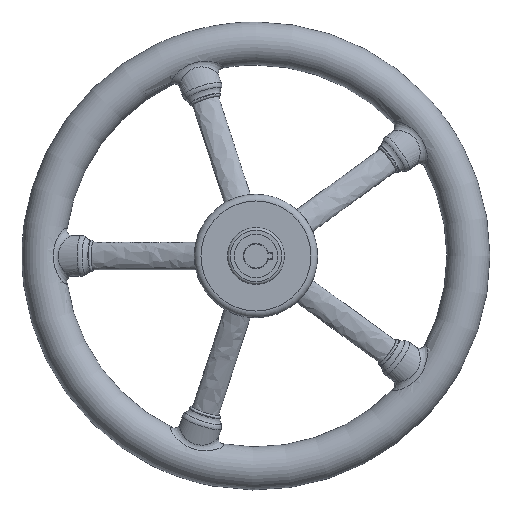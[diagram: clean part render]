
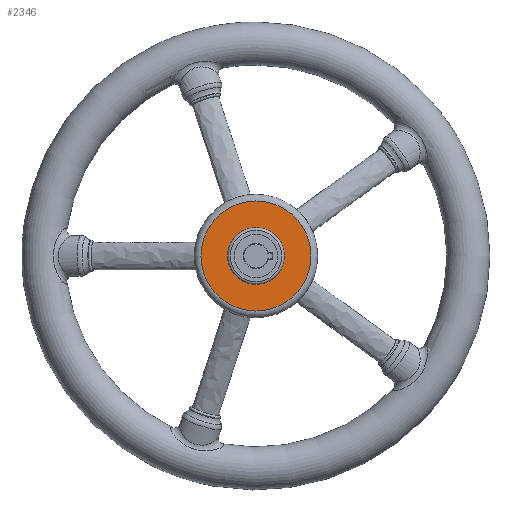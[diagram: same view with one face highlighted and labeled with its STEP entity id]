
A CAD part, front view. The second image highlights one B-rep face of the part: STEP entity #2346.
In plain terms, the highlighted planar face has unit normal (0, -1, 0).
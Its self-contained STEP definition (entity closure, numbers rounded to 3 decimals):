
#121=FACE_BOUND('',#574,.T.);
#153=PLANE('',#2571);
#433=FACE_OUTER_BOUND('',#573,.T.);
#573=EDGE_LOOP('',(#1913,#1914));
#574=EDGE_LOOP('',(#1915,#1916));
#817=CIRCLE('',#2565,21.25);
#818=CIRCLE('',#2566,21.25);
#820=CIRCLE('',#2569,41.15);
#821=CIRCLE('',#2570,41.15);
#1045=VERTEX_POINT('',#68084);
#1046=VERTEX_POINT('',#68085);
#1047=VERTEX_POINT('',#68090);
#1048=VERTEX_POINT('',#68092);
#1352=EDGE_CURVE('',#1045,#1046,#817,.T.);
#1353=EDGE_CURVE('',#1046,#1045,#818,.T.);
#1356=EDGE_CURVE('',#1047,#1048,#820,.T.);
#1357=EDGE_CURVE('',#1048,#1047,#821,.T.);
#1913=ORIENTED_EDGE('',*,*,#1357,.F.);
#1914=ORIENTED_EDGE('',*,*,#1356,.F.);
#1915=ORIENTED_EDGE('',*,*,#1352,.T.);
#1916=ORIENTED_EDGE('',*,*,#1353,.T.);
#2346=ADVANCED_FACE('',(#433,#121),#153,.F.);
#2565=AXIS2_PLACEMENT_3D('',#68086,#2925,#2926);
#2566=AXIS2_PLACEMENT_3D('',#68087,#2927,#2928);
#2569=AXIS2_PLACEMENT_3D('',#68093,#2934,#2935);
#2570=AXIS2_PLACEMENT_3D('',#68094,#2936,#2937);
#2571=AXIS2_PLACEMENT_3D('',#68095,#2938,#2939);
#2925=DIRECTION('center_axis',(0.,1.,0.));
#2926=DIRECTION('ref_axis',(1.,0.,0.));
#2927=DIRECTION('center_axis',(0.,1.,0.));
#2928=DIRECTION('ref_axis',(1.,0.,0.));
#2934=DIRECTION('center_axis',(0.,1.,0.));
#2935=DIRECTION('ref_axis',(-1.,0.,0.));
#2936=DIRECTION('center_axis',(0.,1.,0.));
#2937=DIRECTION('ref_axis',(-1.,0.,0.));
#2938=DIRECTION('center_axis',(0.,1.,0.));
#2939=DIRECTION('ref_axis',(0.,0.,1.));
#68084=CARTESIAN_POINT('',(21.25,3.8,0.));
#68085=CARTESIAN_POINT('',(-21.25,3.8,0.));
#68086=CARTESIAN_POINT('Origin',(0.,3.8,0.));
#68087=CARTESIAN_POINT('Origin',(0.,3.8,0.));
#68090=CARTESIAN_POINT('',(0.,3.8,-41.15));
#68092=CARTESIAN_POINT('',(41.15,3.8,0.));
#68093=CARTESIAN_POINT('Origin',(0.,3.8,0.));
#68094=CARTESIAN_POINT('Origin',(0.,3.8,0.));
#68095=CARTESIAN_POINT('Origin',(0.,3.8,0.));
